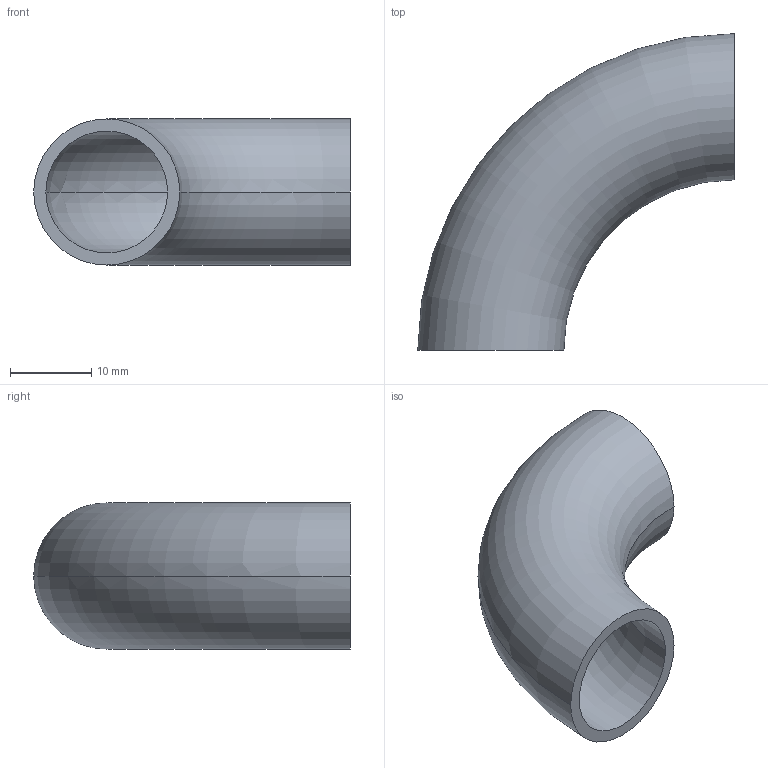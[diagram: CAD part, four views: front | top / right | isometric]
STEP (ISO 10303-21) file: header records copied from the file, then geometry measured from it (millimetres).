
FILE_DESCRIPTION (( 'STEP AP203' ), '1' );
FILE_NAME ('OT212-15-18x1_5_OSTP.step', '2020-12-16T02:10:05', ( '' ), ( '' ), 'SwSTEP 2.0', 'SolidWorks 2014', '' );
FILE_SCHEMA (( 'CONFIG_CONTROL_DESIGN' ));
Length unit declared in the file: millimetre
Products named in the file (1): OT212-15-18x1_5_OSTP
Bounding box: 39 x 39 x 18 mm (x, y, z)
Volume: 3664.1 mm3; surface area: 5041 mm2
Topology: 1 solids, 1 shells, 6 faces, 12 edges, 8 vertices
Faces by surface type: torus 4, plane 2
Entity records: 249 total; most frequent: DIRECTION 38, CARTESIAN_POINT 27, ORIENTED_EDGE 24, AXIS2_PLACEMENT_3D 19, EDGE_CURVE 12, CIRCLE 12, EDGE_LOOP 8, PERSON_AND_ORGANIZATION 8
